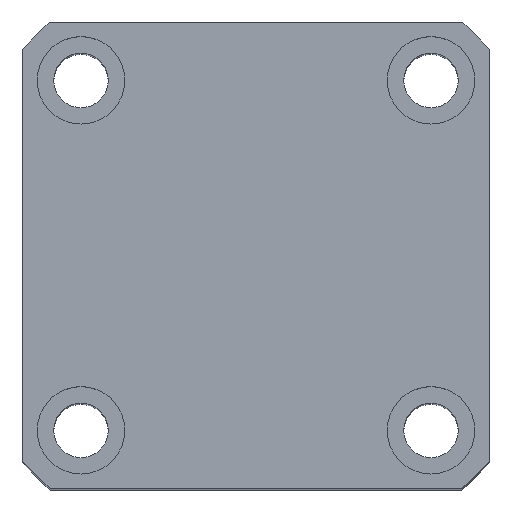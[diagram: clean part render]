
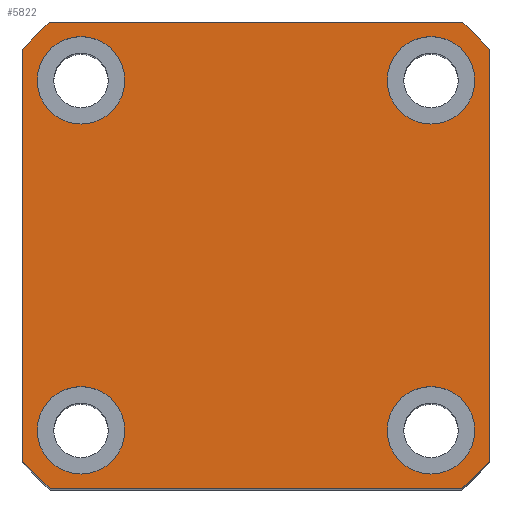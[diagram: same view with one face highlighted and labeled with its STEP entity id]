
A CAD part, top view. The second image highlights one B-rep face of the part: STEP entity #5822.
In plain terms, the highlighted planar face has unit normal (0, 0, 1) as drawn and (1, 0, 0) by its records, which use the part's own axes.
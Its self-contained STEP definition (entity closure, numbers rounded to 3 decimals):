
#52 = ORIENTED_EDGE ( 'NONE', *, *, #5947, .F. ) ;
#361 = AXIS2_PLACEMENT_3D ( 'NONE', #5336, #484, #6185 ) ;
#429 = CARTESIAN_POINT ( 'NONE',  ( 80., 18., -22.5 ) ) ;
#484 = DIRECTION ( 'NONE',  ( 1., 0., 0. ) ) ;
#540 = EDGE_CURVE ( 'NONE', #9072, #6302, #2929, .T. ) ;
#568 = ORIENTED_EDGE ( 'NONE', *, *, #540, .T. ) ;
#569 = VERTEX_POINT ( 'NONE', #3468 ) ;
#608 = FACE_OUTER_BOUND ( 'NONE', #7489, .T. ) ;
#721 = AXIS2_PLACEMENT_3D ( 'NONE', #8405, #8140, #4249 ) ;
#753 = VERTEX_POINT ( 'NONE', #10183 ) ;
#765 = VERTEX_POINT ( 'NONE', #429 ) ;
#783 = DIRECTION ( 'NONE',  ( 0., 0., -1. ) ) ;
#786 = CARTESIAN_POINT ( 'NONE',  ( 80., -21.166, 24. ) ) ;
#837 = EDGE_CURVE ( 'NONE', #1566, #2960, #1933, .T. ) ;
#838 = ORIENTED_EDGE ( 'NONE', *, *, #1492, .T. ) ;
#940 = EDGE_CURVE ( 'NONE', #2960, #1566, #7989, .T. ) ;
#1093 = ORIENTED_EDGE ( 'NONE', *, *, #7164, .T. ) ;
#1130 = FACE_BOUND ( 'NONE', #5017, .T. ) ;
#1192 = EDGE_CURVE ( 'NONE', #10493, #9626, #5228, .T. ) ;
#1484 = AXIS2_PLACEMENT_3D ( 'NONE', #7033, #2110, #7881 ) ;
#1492 = EDGE_CURVE ( 'NONE', #6302, #1941, #4707, .T. ) ;
#1547 = EDGE_CURVE ( 'NONE', #569, #6305, #8922, .T. ) ;
#1566 = VERTEX_POINT ( 'NONE', #4558 ) ;
#1850 = DIRECTION ( 'NONE',  ( 1., 0., 0. ) ) ;
#1933 = CIRCLE ( 'NONE', #8091, 4.5 ) ;
#1941 = VERTEX_POINT ( 'NONE', #9353 ) ;
#2107 = VERTEX_POINT ( 'NONE', #6058 ) ;
#2110 = DIRECTION ( 'NONE',  ( 1., 0., 0. ) ) ;
#2195 = DIRECTION ( 'NONE',  ( 0., -1., 0. ) ) ;
#2214 = ORIENTED_EDGE ( 'NONE', *, *, #9730, .T. ) ;
#2251 = CIRCLE ( 'NONE', #8102, 4.5 ) ;
#2343 = EDGE_LOOP ( 'NONE', ( #3840, #6043 ) ) ;
#2362 = VERTEX_POINT ( 'NONE', #5674 ) ;
#2389 = VERTEX_POINT ( 'NONE', #10591 ) ;
#2438 = CARTESIAN_POINT ( 'NONE',  ( 80., 18., 22.5 ) ) ;
#2459 = ORIENTED_EDGE ( 'NONE', *, *, #8604, .F. ) ;
#2674 = CARTESIAN_POINT ( 'NONE',  ( 80., 18., -18. ) ) ;
#2929 = LINE ( 'NONE', #3795, #4838 ) ;
#2960 = VERTEX_POINT ( 'NONE', #4074 ) ;
#2964 = DIRECTION ( 'NONE',  ( 0., 0., 1. ) ) ;
#3042 = VECTOR ( 'NONE', #7002, 1000. ) ;
#3108 = CIRCLE ( 'NONE', #6238, 4.5 ) ;
#3319 = CARTESIAN_POINT ( 'NONE',  ( 80., -18., 18. ) ) ;
#3398 = CARTESIAN_POINT ( 'NONE',  ( 80., 18., -18. ) ) ;
#3468 = CARTESIAN_POINT ( 'NONE',  ( 80., 18., 13.5 ) ) ;
#3486 = DIRECTION ( 'NONE',  ( 0., 0., -1. ) ) ;
#3795 = CARTESIAN_POINT ( 'NONE',  ( 80., 24., 24. ) ) ;
#3800 = CARTESIAN_POINT ( 'NONE',  ( 80., 18., 18. ) ) ;
#3840 = ORIENTED_EDGE ( 'NONE', *, *, #940, .F. ) ;
#3868 = PLANE ( 'NONE',  #4191 ) ;
#4074 = CARTESIAN_POINT ( 'NONE',  ( 80., -18., -22.5 ) ) ;
#4160 = DIRECTION ( 'NONE',  ( 0., 0., -1. ) ) ;
#4191 = AXIS2_PLACEMENT_3D ( 'NONE', #4606, #9717, #4684 ) ;
#4227 = DIRECTION ( 'NONE',  ( 0., 0., -1. ) ) ;
#4249 = DIRECTION ( 'NONE',  ( 0., 0., -1. ) ) ;
#4351 = DIRECTION ( 'NONE',  ( 0., 0., -1. ) ) ;
#4409 = LINE ( 'NONE', #7131, #4660 ) ;
#4472 = EDGE_LOOP ( 'NONE', ( #2459, #8689 ) ) ;
#4486 = AXIS2_PLACEMENT_3D ( 'NONE', #3398, #9243, #4227 ) ;
#4558 = CARTESIAN_POINT ( 'NONE',  ( 80., -18., -13.5 ) ) ;
#4584 = AXIS2_PLACEMENT_3D ( 'NONE', #6751, #1850, #7601 ) ;
#4606 = CARTESIAN_POINT ( 'NONE',  ( 80., 0., 0. ) ) ;
#4617 = DIRECTION ( 'NONE',  ( 0., 0., -1. ) ) ;
#4660 = VECTOR ( 'NONE', #2195, 1000. ) ;
#4684 = DIRECTION ( 'NONE',  ( 0., 0., -1. ) ) ;
#4707 = CIRCLE ( 'NONE', #6752, 32. ) ;
#4784 = CIRCLE ( 'NONE', #9592, 4.5 ) ;
#4838 = VECTOR ( 'NONE', #2964, 1000. ) ;
#4862 = EDGE_CURVE ( 'NONE', #2362, #2107, #10323, .T. ) ;
#4921 = FACE_BOUND ( 'NONE', #4472, .T. ) ;
#5017 = EDGE_LOOP ( 'NONE', ( #6973, #8028 ) ) ;
#5120 = CARTESIAN_POINT ( 'NONE',  ( 80., 18., -13.5 ) ) ;
#5181 = LINE ( 'NONE', #5503, #7414 ) ;
#5228 = LINE ( 'NONE', #6703, #3042 ) ;
#5231 = CIRCLE ( 'NONE', #361, 32. ) ;
#5336 = CARTESIAN_POINT ( 'NONE',  ( 80., 0., 0. ) ) ;
#5503 = CARTESIAN_POINT ( 'NONE',  ( 80., 24., -24. ) ) ;
#5648 = DIRECTION ( 'NONE',  ( 1., 0., 0. ) ) ;
#5674 = CARTESIAN_POINT ( 'NONE',  ( 80., -18., 13.5 ) ) ;
#5712 = EDGE_CURVE ( 'NONE', #753, #9072, #7426, .T. ) ;
#5758 = DIRECTION ( 'NONE',  ( 0., 0., -1. ) ) ;
#5822 = ADVANCED_FACE ( 'NONE', ( #7153, #9402, #4921, #1130, #608 ), #3868, .T. ) ;
#5947 = EDGE_CURVE ( 'NONE', #2107, #2362, #2251, .T. ) ;
#6043 = ORIENTED_EDGE ( 'NONE', *, *, #837, .F. ) ;
#6058 = CARTESIAN_POINT ( 'NONE',  ( 80., -18., 22.5 ) ) ;
#6185 = DIRECTION ( 'NONE',  ( 0., 0., -1. ) ) ;
#6213 = EDGE_CURVE ( 'NONE', #9903, #10493, #9784, .T. ) ;
#6238 = AXIS2_PLACEMENT_3D ( 'NONE', #3800, #9651, #4617 ) ;
#6302 = VERTEX_POINT ( 'NONE', #6527 ) ;
#6304 = DIRECTION ( 'NONE',  ( 1., 0., 0. ) ) ;
#6305 = VERTEX_POINT ( 'NONE', #2438 ) ;
#6333 = EDGE_CURVE ( 'NONE', #8046, #765, #4784, .T. ) ;
#6426 = CARTESIAN_POINT ( 'NONE',  ( 80., -24., 21.166 ) ) ;
#6516 = CARTESIAN_POINT ( 'NONE',  ( 80., -18., -18. ) ) ;
#6525 = CARTESIAN_POINT ( 'NONE',  ( 80., 18., 18. ) ) ;
#6527 = CARTESIAN_POINT ( 'NONE',  ( 80., 24., 21.166 ) ) ;
#6559 = DIRECTION ( 'NONE',  ( 1., 0., 0. ) ) ;
#6580 = ORIENTED_EDGE ( 'NONE', *, *, #5712, .T. ) ;
#6703 = CARTESIAN_POINT ( 'NONE',  ( 80., -24., 24. ) ) ;
#6751 = CARTESIAN_POINT ( 'NONE',  ( 80., -18., 18. ) ) ;
#6752 = AXIS2_PLACEMENT_3D ( 'NONE', #7012, #6304, #5758 ) ;
#6799 = CIRCLE ( 'NONE', #4486, 4.5 ) ;
#6973 = ORIENTED_EDGE ( 'NONE', *, *, #1547, .F. ) ;
#7002 = DIRECTION ( 'NONE',  ( 0., 0., -1. ) ) ;
#7012 = CARTESIAN_POINT ( 'NONE',  ( 80., 0., 0. ) ) ;
#7033 = CARTESIAN_POINT ( 'NONE',  ( 80., 0., 0. ) ) ;
#7100 = ORIENTED_EDGE ( 'NONE', *, *, #1192, .T. ) ;
#7131 = CARTESIAN_POINT ( 'NONE',  ( 80., 24., 24. ) ) ;
#7153 = FACE_BOUND ( 'NONE', #2343, .T. ) ;
#7164 = EDGE_CURVE ( 'NONE', #1941, #9903, #4409, .T. ) ;
#7236 = DIRECTION ( 'NONE',  ( 0., 0., -1. ) ) ;
#7368 = ORIENTED_EDGE ( 'NONE', *, *, #8260, .T. ) ;
#7414 = VECTOR ( 'NONE', #10536, 1000. ) ;
#7426 = CIRCLE ( 'NONE', #1484, 32. ) ;
#7489 = EDGE_LOOP ( 'NONE', ( #2214, #6580, #568, #838, #1093, #8274, #7100, #7368 ) ) ;
#7601 = DIRECTION ( 'NONE',  ( 0., 0., -1. ) ) ;
#7881 = DIRECTION ( 'NONE',  ( 0., 0., -1. ) ) ;
#7883 = AXIS2_PLACEMENT_3D ( 'NONE', #6525, #6559, #7236 ) ;
#7989 = CIRCLE ( 'NONE', #721, 4.5 ) ;
#8028 = ORIENTED_EDGE ( 'NONE', *, *, #10210, .F. ) ;
#8046 = VERTEX_POINT ( 'NONE', #5120 ) ;
#8091 = AXIS2_PLACEMENT_3D ( 'NONE', #6516, #9179, #4351 ) ;
#8102 = AXIS2_PLACEMENT_3D ( 'NONE', #3319, #9170, #4160 ) ;
#8140 = DIRECTION ( 'NONE',  ( 1., 0., 0. ) ) ;
#8216 = CARTESIAN_POINT ( 'NONE',  ( 80., -24., -21.166 ) ) ;
#8260 = EDGE_CURVE ( 'NONE', #9626, #2389, #5231, .T. ) ;
#8274 = ORIENTED_EDGE ( 'NONE', *, *, #6213, .T. ) ;
#8405 = CARTESIAN_POINT ( 'NONE',  ( 80., -18., -18. ) ) ;
#8463 = AXIS2_PLACEMENT_3D ( 'NONE', #10677, #5648, #783 ) ;
#8480 = DIRECTION ( 'NONE',  ( 1., 0., 0. ) ) ;
#8547 = ORIENTED_EDGE ( 'NONE', *, *, #4862, .F. ) ;
#8604 = EDGE_CURVE ( 'NONE', #765, #8046, #6799, .T. ) ;
#8689 = ORIENTED_EDGE ( 'NONE', *, *, #6333, .F. ) ;
#8922 = CIRCLE ( 'NONE', #7883, 4.5 ) ;
#9072 = VERTEX_POINT ( 'NONE', #10069 ) ;
#9170 = DIRECTION ( 'NONE',  ( 1., 0., 0. ) ) ;
#9179 = DIRECTION ( 'NONE',  ( 1., 0., 0. ) ) ;
#9243 = DIRECTION ( 'NONE',  ( 1., 0., 0. ) ) ;
#9353 = CARTESIAN_POINT ( 'NONE',  ( 80., 21.166, 24. ) ) ;
#9402 = FACE_BOUND ( 'NONE', #10187, .T. ) ;
#9592 = AXIS2_PLACEMENT_3D ( 'NONE', #2674, #8480, #3486 ) ;
#9626 = VERTEX_POINT ( 'NONE', #8216 ) ;
#9651 = DIRECTION ( 'NONE',  ( 1., 0., 0. ) ) ;
#9717 = DIRECTION ( 'NONE',  ( 1., 0., 0. ) ) ;
#9730 = EDGE_CURVE ( 'NONE', #2389, #753, #5181, .T. ) ;
#9784 = CIRCLE ( 'NONE', #8463, 32. ) ;
#9903 = VERTEX_POINT ( 'NONE', #786 ) ;
#10069 = CARTESIAN_POINT ( 'NONE',  ( 80., 24., -21.166 ) ) ;
#10183 = CARTESIAN_POINT ( 'NONE',  ( 80., 21.166, -24. ) ) ;
#10187 = EDGE_LOOP ( 'NONE', ( #8547, #52 ) ) ;
#10210 = EDGE_CURVE ( 'NONE', #6305, #569, #3108, .T. ) ;
#10323 = CIRCLE ( 'NONE', #4584, 4.5 ) ;
#10493 = VERTEX_POINT ( 'NONE', #6426 ) ;
#10536 = DIRECTION ( 'NONE',  ( 0., 1., 0. ) ) ;
#10591 = CARTESIAN_POINT ( 'NONE',  ( 80., -21.166, -24. ) ) ;
#10677 = CARTESIAN_POINT ( 'NONE',  ( 80., 0., 0. ) ) ;
